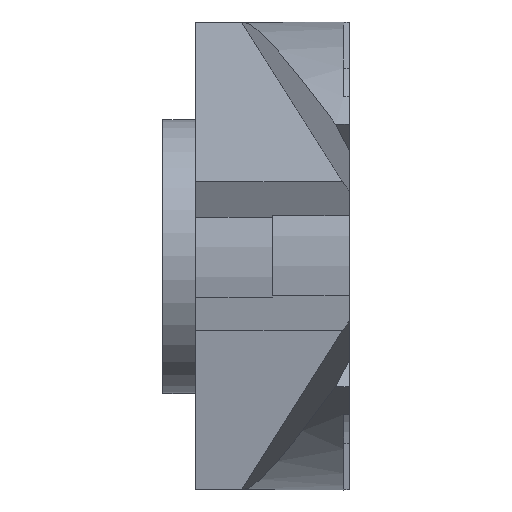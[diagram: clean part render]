
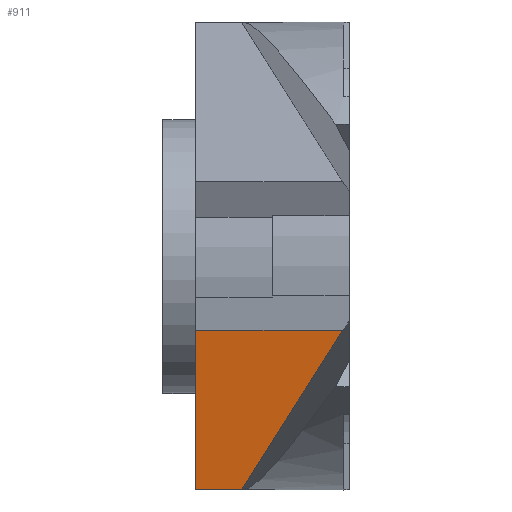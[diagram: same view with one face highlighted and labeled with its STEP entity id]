
A CAD part, top view. The second image highlights one B-rep face of the part: STEP entity #911.
In plain terms, the highlighted planar face has unit normal (0, -0.151, 0.989).
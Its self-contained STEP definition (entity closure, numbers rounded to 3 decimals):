
#70 = ORIENTED_EDGE ( 'NONE', *, *, #305, .F. ) ;
#88 = AXIS2_PLACEMENT_3D ( 'NONE', #1296, #2000, #394 ) ;
#147 = LINE ( 'NONE', #1530, #894 ) ;
#176 = VERTEX_POINT ( 'NONE', #261 ) ;
#185 = EDGE_CURVE ( 'NONE', #279, #1938, #1907, .T. ) ;
#261 = CARTESIAN_POINT ( 'NONE',  ( -3.5, -3.373, 18.705 ) ) ;
#279 = VERTEX_POINT ( 'NONE', #451 ) ;
#305 = EDGE_CURVE ( 'NONE', #1938, #1764, #147, .T. ) ;
#394 = DIRECTION ( 'NONE',  ( 0., 0.988, 0.152 ) ) ;
#421 = DIRECTION ( 'NONE',  ( 0., 0.988, 0.152 ) ) ;
#451 = CARTESIAN_POINT ( 'NONE',  ( 3.188, -3.373, 18.705 ) ) ;
#566 = CARTESIAN_POINT ( 'NONE',  ( -3.5, -10.786, 17.569 ) ) ;
#572 = PLANE ( 'NONE',  #88 ) ;
#648 = DIRECTION ( 'NONE',  ( -0.53, -0.838, -0.128 ) ) ;
#707 = CARTESIAN_POINT ( 'NONE',  ( -3.5, -3.373, 18.705 ) ) ;
#720 = EDGE_CURVE ( 'NONE', #1764, #176, #2004, .T. ) ;
#766 = ORIENTED_EDGE ( 'NONE', *, *, #1084, .T. ) ;
#863 = EDGE_LOOP ( 'NONE', ( #766, #1967, #70, #1560 ) ) ;
#894 = VECTOR ( 'NONE', #1011, 1000. ) ;
#911 = ADVANCED_FACE ( 'NONE', ( #2187 ), #572, .F. ) ;
#1011 = DIRECTION ( 'NONE',  ( -1., 0., 0. ) ) ;
#1084 = EDGE_CURVE ( 'NONE', #279, #176, #1919, .T. ) ;
#1172 = CARTESIAN_POINT ( 'NONE',  ( -3.5, -10.632, 17.592 ) ) ;
#1296 = CARTESIAN_POINT ( 'NONE',  ( -3.5, -2.879, 18.781 ) ) ;
#1487 = VECTOR ( 'NONE', #1955, 1000. ) ;
#1497 = CARTESIAN_POINT ( 'NONE',  ( -1.402, -10.632, 17.592 ) ) ;
#1530 = CARTESIAN_POINT ( 'NONE',  ( -3.5, -10.632, 17.592 ) ) ;
#1560 = ORIENTED_EDGE ( 'NONE', *, *, #185, .F. ) ;
#1701 = CARTESIAN_POINT ( 'NONE',  ( 3.5, -2.879, 18.781 ) ) ;
#1764 = VERTEX_POINT ( 'NONE', #1172 ) ;
#1907 = LINE ( 'NONE', #1701, #2045 ) ;
#1919 = LINE ( 'NONE', #707, #1487 ) ;
#1938 = VERTEX_POINT ( 'NONE', #1497 ) ;
#1955 = DIRECTION ( 'NONE',  ( -1., 0., 0. ) ) ;
#1967 = ORIENTED_EDGE ( 'NONE', *, *, #720, .F. ) ;
#2000 = DIRECTION ( 'NONE',  ( 0., 0.152, -0.988 ) ) ;
#2004 = LINE ( 'NONE', #566, #2015 ) ;
#2015 = VECTOR ( 'NONE', #421, 1000. ) ;
#2045 = VECTOR ( 'NONE', #648, 1000. ) ;
#2187 = FACE_OUTER_BOUND ( 'NONE', #863, .T. ) ;
